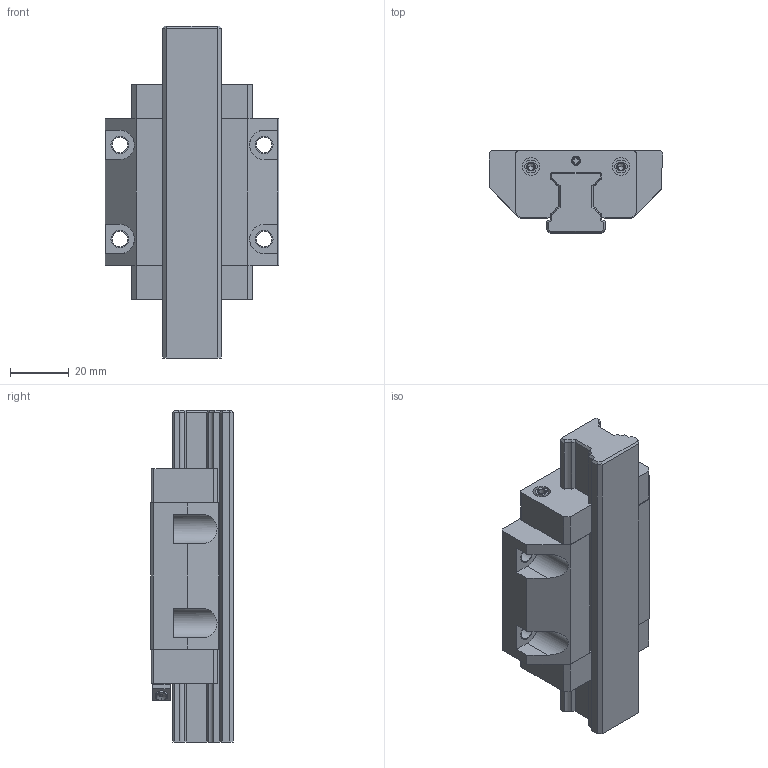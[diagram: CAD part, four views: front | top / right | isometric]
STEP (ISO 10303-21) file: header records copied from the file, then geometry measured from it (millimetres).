
FILE_DESCRIPTION((''),'2;1');
FILE_NAME('KWC_020_FNN_CS__ASM','2021-10-14T07:45:32',('ac91sw'),(''),'CREO PARAMETRIC BY PTC INC, 2020044','CREO PARAMETRIC BY PTC INC, 2020044','');
FILE_SCHEMA(('AUTOMOTIVE_DESIGN { 1 0 10303 214 1 1 1 1 }'));
Length unit declared in the file: millimetre
Products named in the file (7): KWC_020_FNN_CS__SKEL; R169380061; R169480002_Z; KWC_020_FNN_CS__PSF; R343708901_Z; R341700409_Z; KWC_020_FNN_CS__ASM
Assembly tree (7 placements, depth 2):
  KWC_020_FNN_CS__ASM
    KWC_020_FNN_CS__SKEL
    R169380061
    R169480002_Z  x2
    KWC_020_FNN_CS__PSF
    R343708901_Z
    R341700409_Z
Bounding box: 59 x 28 x 112.7 mm (x, y, z)
Volume: 86980.8 mm3; surface area: 33610.4 mm2
Topology: 6 solids, 15 shells, 325 faces, 835 edges, 540 vertices
Faces by surface type: plane 197, cylinder 96, cone 32
Entity records: 14084 total; most frequent: CARTESIAN_POINT 1649, DIRECTION 1359, ORIENTED_EDGE 1274, PROPERTY_DEFINITION 814, REPRESENTATION 806, PROPERTY_DEFINITION_REPRESENTATION 806, DESCRIPTIVE_REPRESENTATION_ITEM 754, GENERAL_PROPERTY 749
